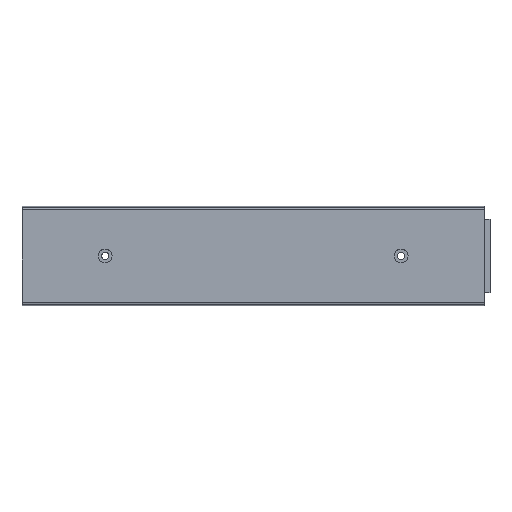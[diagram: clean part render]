
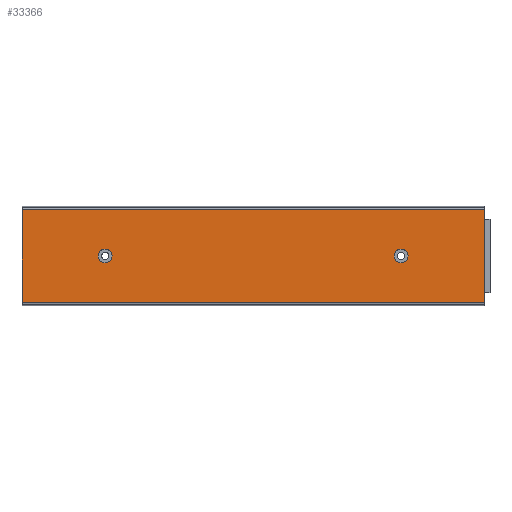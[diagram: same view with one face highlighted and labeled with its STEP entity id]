
A CAD part, top view. The second image highlights one B-rep face of the part: STEP entity #33366.
In plain terms, the highlighted planar face has unit normal (0, 0, 1).
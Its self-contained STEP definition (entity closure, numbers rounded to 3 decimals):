
#177=CIRCLE('',#34658,4.25);
#178=CIRCLE('',#34660,4.25);
#1551=ORIENTED_EDGE('',*,*,#8102,.T.);
#1552=ORIENTED_EDGE('',*,*,#8101,.T.);
#1553=ORIENTED_EDGE('',*,*,#8173,.T.);
#1554=ORIENTED_EDGE('',*,*,#8169,.F.);
#1555=ORIENTED_EDGE('',*,*,#8174,.T.);
#1556=ORIENTED_EDGE('',*,*,#8175,.F.);
#8101=EDGE_CURVE('',#11499,#11499,#177,.T.);
#8102=EDGE_CURVE('',#11500,#11500,#178,.T.);
#8169=EDGE_CURVE('',#11557,#11558,#13964,.F.);
#8173=EDGE_CURVE('',#11561,#11558,#13966,.T.);
#8174=EDGE_CURVE('',#11557,#11562,#13967,.T.);
#8175=EDGE_CURVE('',#11561,#11562,#13968,.T.);
#11499=VERTEX_POINT('',#44496);
#11500=VERTEX_POINT('',#44499);
#11557=VERTEX_POINT('',#44645);
#11558=VERTEX_POINT('',#44646);
#11561=VERTEX_POINT('',#44654);
#11562=VERTEX_POINT('',#44656);
#13964=LINE('',#44644,#17305);
#13966=LINE('',#44653,#17307);
#13967=LINE('',#44655,#17308);
#13968=LINE('',#44657,#17309);
#17305=VECTOR('',#36882,1000.);
#17307=VECTOR('',#36890,1000.);
#17308=VECTOR('',#36891,1000.);
#17309=VECTOR('',#36892,1000.);
#20420=EDGE_LOOP('',(#1551));
#20421=EDGE_LOOP('',(#1552));
#20422=EDGE_LOOP('',(#1553,#1554,#1555,#1556));
#21806=FACE_BOUND('',#20420,.T.);
#21807=FACE_BOUND('',#20421,.T.);
#21808=FACE_BOUND('',#20422,.T.);
#23109=PLANE('',#34703);
#33366=ADVANCED_FACE('',(#21806,#21807,#21808),#23109,.T.);
#34658=AXIS2_PLACEMENT_3D('',#44495,#36748,#36749);
#34660=AXIS2_PLACEMENT_3D('',#44498,#36752,#36753);
#34703=AXIS2_PLACEMENT_3D('',#44652,#36888,#36889);
#36748=DIRECTION('',(0.,0.,-1.));
#36749=DIRECTION('',(0.,-1.,0.));
#36752=DIRECTION('',(0.,0.,-1.));
#36753=DIRECTION('',(0.,-1.,0.));
#36882=DIRECTION('',(-1.,0.,0.));
#36888=DIRECTION('',(0.,0.,1.));
#36889=DIRECTION('',(1.,0.,0.));
#36890=DIRECTION('',(0.,1.,0.));
#36891=DIRECTION('',(0.,-1.,0.));
#36892=DIRECTION('',(-1.,0.,0.));
#44495=CARTESIAN_POINT('',(-91.,0.,8.6));
#44496=CARTESIAN_POINT('',(-91.,-4.25,8.6));
#44498=CARTESIAN_POINT('',(91.,0.,8.6));
#44499=CARTESIAN_POINT('',(91.,-4.25,8.6));
#44644=CARTESIAN_POINT('',(294.342,28.5,8.6));
#44645=CARTESIAN_POINT('',(-142.15,28.5,8.6));
#44646=CARTESIAN_POINT('',(142.15,28.5,8.6));
#44652=CARTESIAN_POINT('',(0.,0.,8.6));
#44653=CARTESIAN_POINT('',(142.15,-30.5,8.6));
#44654=CARTESIAN_POINT('',(142.15,-28.5,8.6));
#44655=CARTESIAN_POINT('',(-142.15,30.5,8.6));
#44656=CARTESIAN_POINT('',(-142.15,-28.5,8.6));
#44657=CARTESIAN_POINT('',(294.342,-28.5,8.6));
